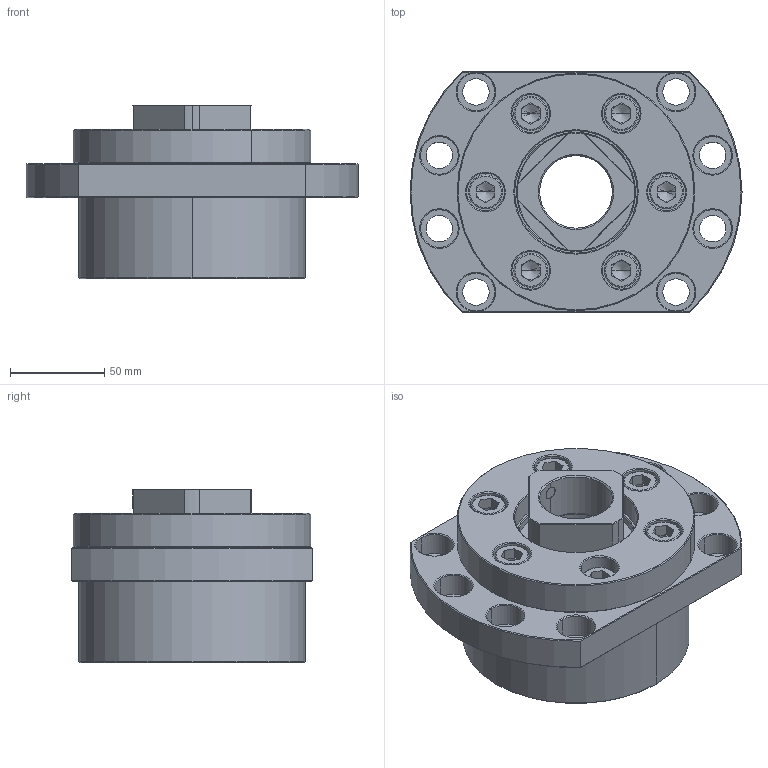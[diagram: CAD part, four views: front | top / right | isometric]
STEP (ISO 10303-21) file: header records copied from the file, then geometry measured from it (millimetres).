
FILE_DESCRIPTION (( 'STEP AP203' ), '1' );
FILE_NAME ('FSGK-40_203.STEP', '2013-02-28T00:30:54', ( '' ), ( '' ), 'SwSTEP 2.0', 'SolidWorks 2012', '' );
FILE_SCHEMA (( 'CONFIG_CONTROL_DESIGN' ));
Length unit declared in the file: millimetre
Products named in the file (1): FSGK-40_203
Bounding box: 176 x 128 x 92 mm (x, y, z)
Volume: 913693.3 mm3; surface area: 134630.5 mm2
Topology: 1 solids, 13 shells, 497 faces, 1154 edges, 692 vertices
Faces by surface type: plane 159, cylinder 157, cone 130, torus 51
Entity records: 14289 total; most frequent: DIRECTION 2682, CARTESIAN_POINT 2577, ORIENTED_EDGE 2260, EDGE_CURVE 1130, AXIS2_PLACEMENT_3D 1099, VERTEX_POINT 692, CIRCLE 601, EDGE_LOOP 572
